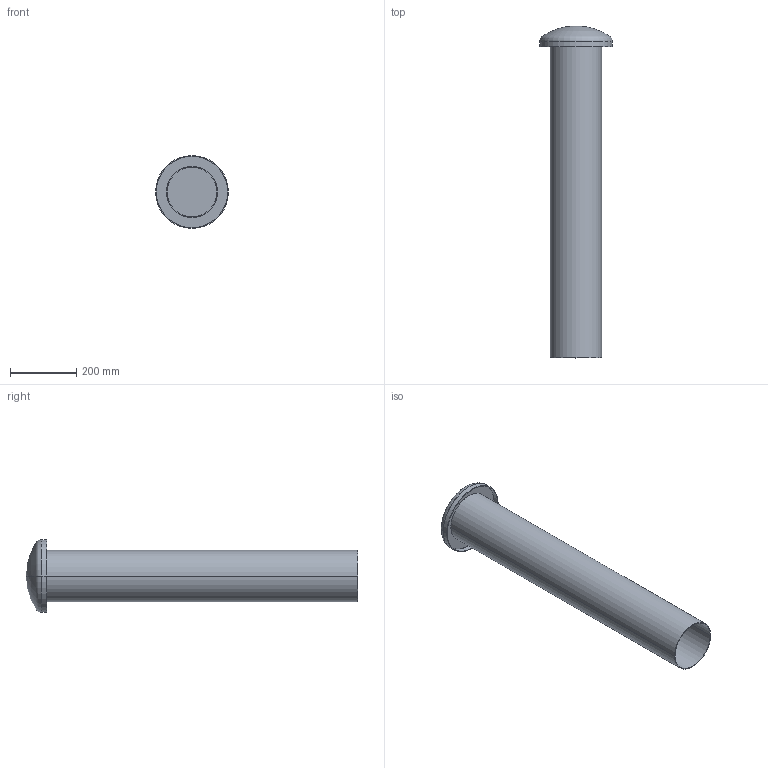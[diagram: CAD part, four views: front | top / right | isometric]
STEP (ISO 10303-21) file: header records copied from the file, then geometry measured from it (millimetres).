
FILE_DESCRIPTION((''),'2;1');
FILE_NAME('017_000119','2023-08-31T06:48:08',('wep'),('HUBER SE'),'CREO PARAMETRIC BY PTC INC, 2022162','CREO PARAMETRIC BY PTC INC, 2022162','');
FILE_SCHEMA(('AUTOMOTIVE_DESIGN { 1 0 10303 214 1 1 1 1 }'));
Length unit declared in the file: millimetre
Products named in the file (1): 017_000119
Bounding box: 219 x 1000 x 219 mm (x, y, z)
Volume: 1096557.4 mm3; surface area: 1096550.9 mm2
Topology: 1 solids, 2 shells, 21 faces, 42 edges, 24 vertices
Faces by surface type: cylinder 8, plane 5, torus 4, sphere 4
Entity records: 1055 total; most frequent: DIRECTION 110, COLOUR_RGB 106, CARTESIAN_POINT 85, ORIENTED_EDGE 76, PROPERTY_DEFINITION 71, REPRESENTATION 70, PROPERTY_DEFINITION_REPRESENTATION 70, DESCRIPTIVE_REPRESENTATION_ITEM 59
